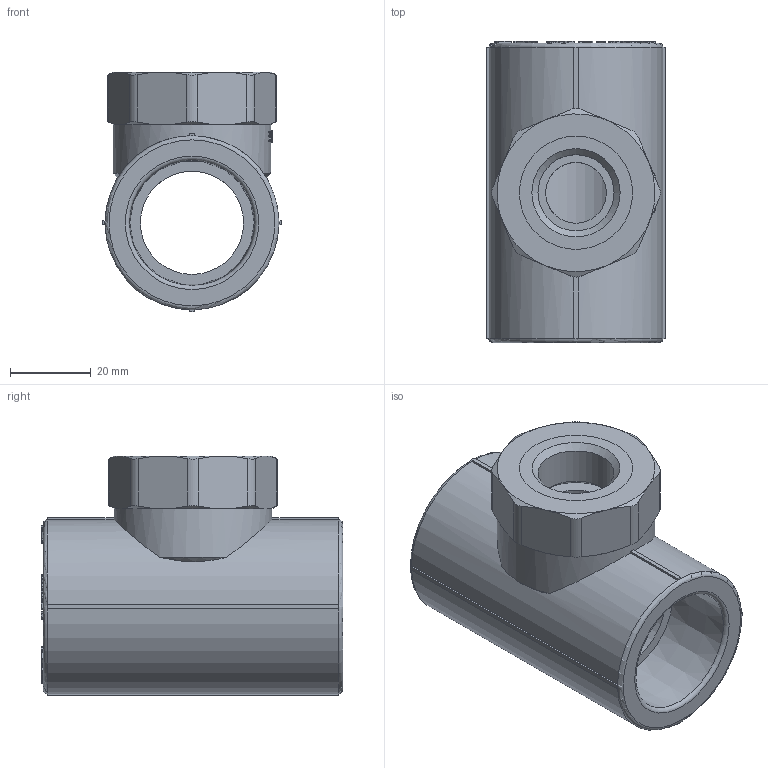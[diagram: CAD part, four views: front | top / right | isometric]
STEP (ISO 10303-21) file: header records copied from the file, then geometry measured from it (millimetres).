
FILE_DESCRIPTION(('STEP AP203'), '1');
FILE_NAME('ÂÐ.752241.038 - VTp.732.0.03204', '', ('UNSPECIFIED'), ('UNSPECIFIED'), 'C3D Converter', 'C3D Toolkit', '');
FILE_SCHEMA(('CONFIG_CONTROL_DESIGN'));
Length unit declared in the file: millimetre
Products named in the file (4): ВР.752241.038; ВР.302639.014.000; ВР.713661.001
Assembly tree (3 placements, depth 3):
  ВР.752241.038
    ВР.302639.014.000
      ВР.713661.001
      (unnamed)
Bounding box: 44 x 74.5 x 59.25 mm (x, y, z)
Volume: 78055.1 mm3; surface area: 29112.3 mm2
Topology: 3 solids, 3 shells, 900 faces, 2448 edges, 1622 vertices
Faces by surface type: extrusion 452, plane 352, cylinder 68, cone 19, torus 9
Full cylindrical faces by diameter (mm): 15 x1, 18.8 x1, 21.5 x2, 24 x8, 25.5 x1, 28 x10, 39 x1
Entity records: 32601 total; most frequent: CARTESIAN_POINT 11735, ORIENTED_EDGE 4810, DIRECTION 2900, EDGE_CURVE 2405, VECTOR 1662, VERTEX_POINT 1615, B_SPLINE_CURVE_WITH_KNOTS 1409, LINE 1210
